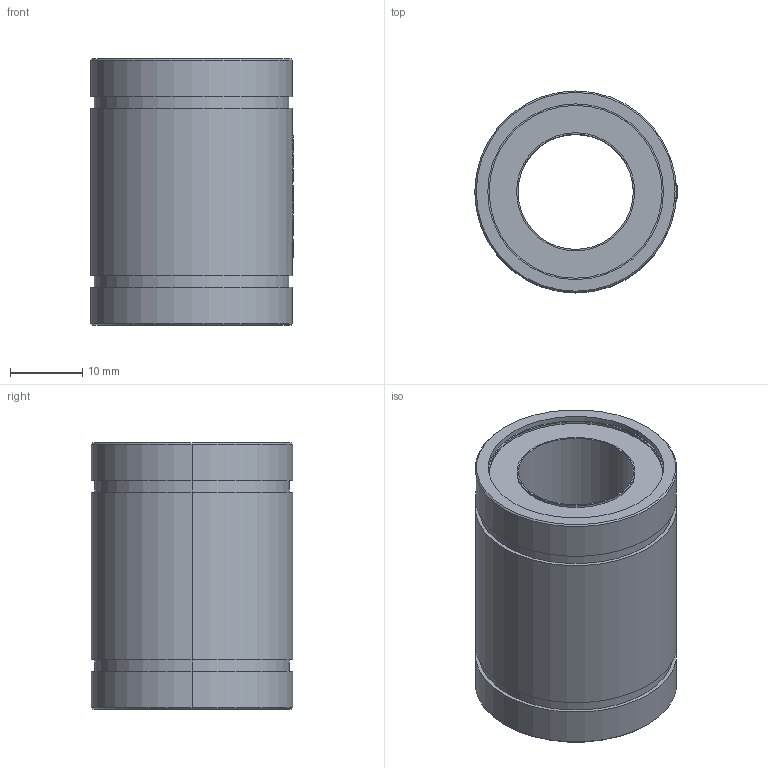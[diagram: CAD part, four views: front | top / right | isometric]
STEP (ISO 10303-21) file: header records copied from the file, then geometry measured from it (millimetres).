
FILE_DESCRIPTION (( 'STEP AP214' ), '1' );
FILE_NAME ('LM16UU.STEP', '2020-09-22T09:38:31', ( '' ), ( '' ), 'SwSTEP 2.0', 'SolidWorks 2018', '' );
FILE_SCHEMA (( 'AUTOMOTIVE_DESIGN' ));
Length unit declared in the file: millimetre
Products named in the file (3): LM16UU-2; LM16UU-1; LM16UU
Assembly tree (2 placements, depth 2):
  LM16UU
    LM16UU-1
    LM16UU-2
Bounding box: 28.1 x 28 x 37 mm (x, y, z)
Volume: 14658.3 mm3; surface area: 11653.1 mm2
Topology: 2 solids, 2 shells, 231 faces, 641 edges, 426 vertices
Faces by surface type: plane 115, cylinder 74, bspline 38, cone 4
Entity records: 9457 total; most frequent: CARTESIAN_POINT 3815, ORIENTED_EDGE 1282, DIRECTION 805, EDGE_CURVE 641, VERTEX_POINT 426, VECTOR 305, LINE 305, AXIS2_PLACEMENT_3D 250
